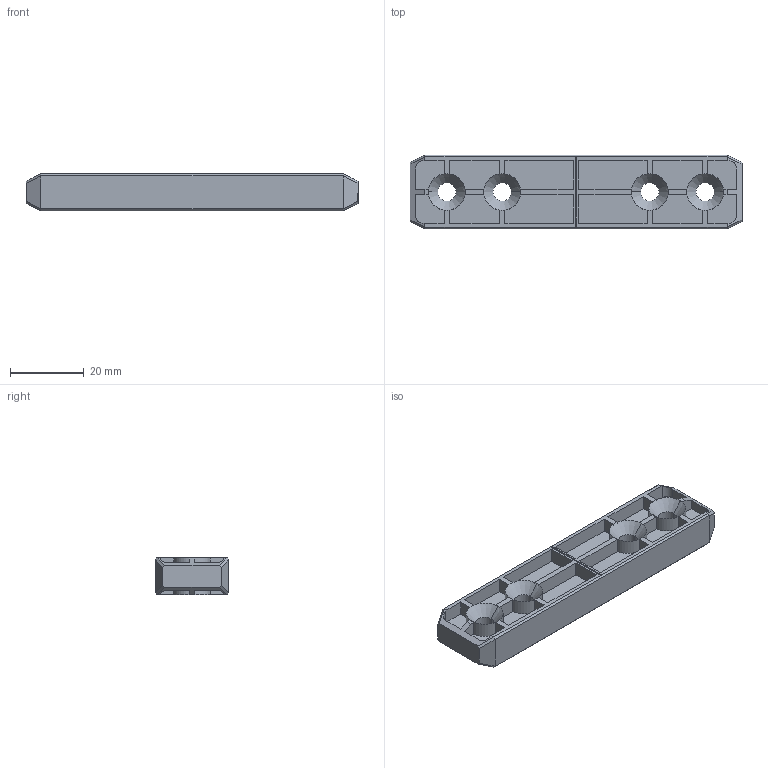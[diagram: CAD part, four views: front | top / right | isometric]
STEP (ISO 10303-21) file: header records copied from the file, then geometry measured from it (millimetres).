
FILE_DESCRIPTION (( 'STEP AP203' ), '1' );
FILE_NAME ('11.05.825-0 Stabilizer Stick For Click Button System Grey PC.STEP', '2024-12-18T13:10:54', ( '' ), ( '' ), 'SwSTEP 2.0', 'SolidWorks 2024', '' );
FILE_SCHEMA (( 'CONFIG_CONTROL_DESIGN' ));
Length unit declared in the file: millimetre
Products named in the file (1): 11.05.825-0 Stabilizer Stick For Click Button System Grey PC
Bounding box: 90 x 20 x 10.2 mm (x, y, z)
Surface area: 9464.5 mm2 (no closed solid volume)
Topology: 0 solids, 1 shells, 223 faces, 609 edges, 378 vertices
Faces by surface type: plane 159, cylinder 48, cone 16
Entity records: 7020 total; most frequent: CARTESIAN_POINT 1235, ORIENTED_EDGE 1210, DIRECTION 1189, EDGE_CURVE 609, VECTOR 461, LINE 461, VERTEX_POINT 378, AXIS2_PLACEMENT_3D 364
